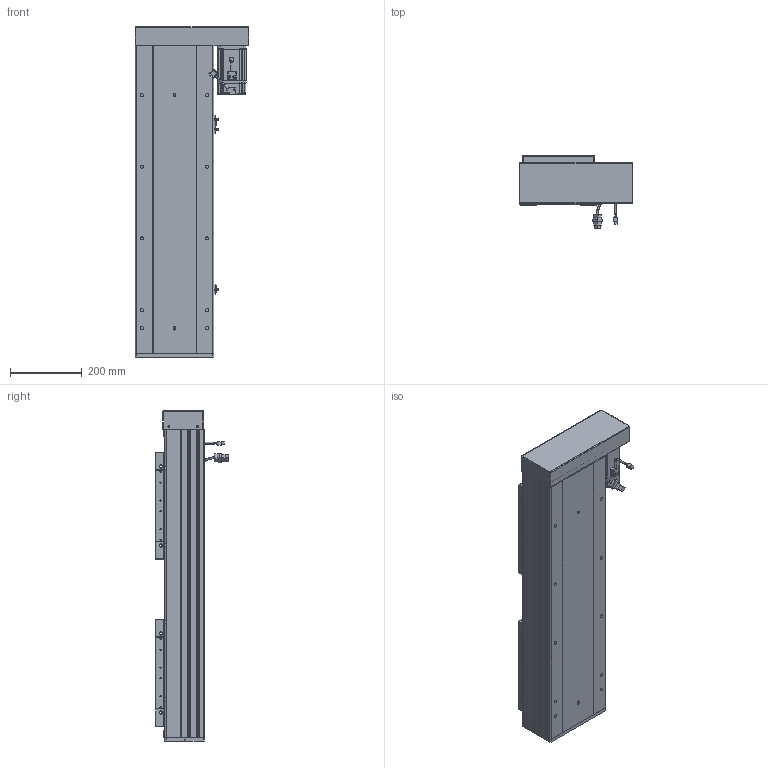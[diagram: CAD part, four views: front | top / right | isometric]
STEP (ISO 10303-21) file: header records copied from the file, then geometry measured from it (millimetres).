
FILE_DESCRIPTION (( 'STEP AP203' ), '1' );
FILE_NAME ('RY220F-L2525-300-RK.SLDASM_450.step', '2022-07-04T01:34:52', ( '' ), ( '' ), 'SwSTEP 2.0', 'SolidWorks 2016', '' );
FILE_SCHEMA (( 'CONFIG_CONTROL_DESIGN' ));
Length unit declared in the file: millimetre
Products named in the file (15): RY220F蛌殏菁釱-300_450; RY220F-祥凄詩湍-蛌殏-300_450; 滅袉蝶18-24; 覜茼ん672; 怢湛750W_ECMA-CX0807ES; RY220F綴裔啣; RY220F-滅鳥奻裔; RY220F-蛌殏奻裔啣-300_450; RY220酘衵殏萇儂欶; RY220F-詩湍揤踡輸; RY220左右折电机安装板; RY220F-672覜茼んえ; RY220F-L2525-300-RK.SLDASM_450; 侐源滅袉蝶; RY220F臏賑釱25-32佪裝
Assembly tree (24 placements, depth 2):
  RY220F-L2525-300-RK.SLDASM_450
    RY220F蛌殏菁釱-300_450
    RY220F-蛌殏奻裔啣-300_450  x2
    怢湛750W_ECMA-CX0807ES
    RY220F臏賑釱25-32佪裝  x2
    RY220F-滅鳥奻裔  x2
    滅袉蝶18-24  x3
    RY220F綴裔啣
    RY220F-祥凄詩湍-蛌殏-300_450
    RY220F-詩湍揤踡輸  x2
    覜茼ん672  x3
    RY220F-672覜茼んえ  x2
    RY220左右折电机安装板
    RY220酘衵殏萇儂欶
    侐源滅袉蝶  x2
Bounding box: 317.5 x 205.27 x 921 mm (x, y, z)
Volume: 10820061.4 mm3; surface area: 2758560 mm2
Topology: 25 solids, 25 shells, 2648 faces, 7224 edges, 4502 vertices
Faces by surface type: cylinder 1182, plane 1044, cone 351, bspline 45, sphere 16, torus 10
Entity records: 65436 total; most frequent: CARTESIAN_POINT 18115, ORIENTED_EDGE 9606, DIRECTION 9208, EDGE_CURVE 4803, AXIS2_PLACEMENT_3D 3246, VERTEX_POINT 3118, LINE 2716, VECTOR 2716
